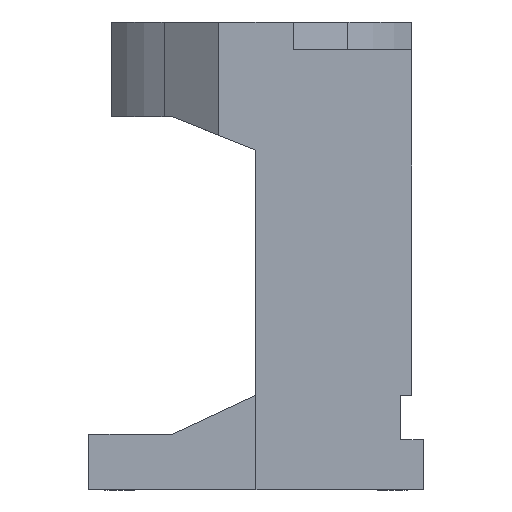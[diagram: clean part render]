
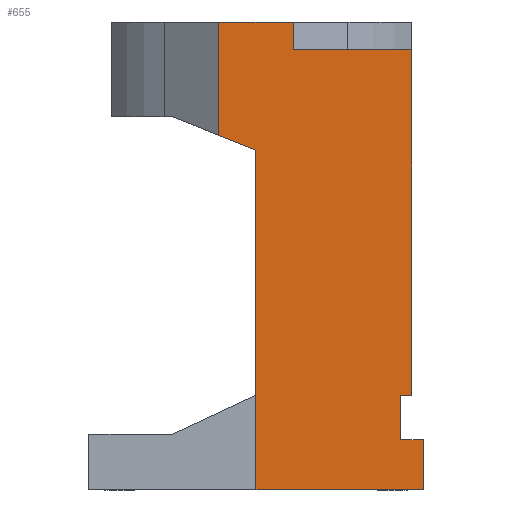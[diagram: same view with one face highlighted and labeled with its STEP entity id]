
A CAD part, left-side view. The second image highlights one B-rep face of the part: STEP entity #655.
In plain terms, the highlighted planar face has unit normal (-1, 0, 0).
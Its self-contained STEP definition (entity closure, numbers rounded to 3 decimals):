
#80 = CARTESIAN_POINT ( 'NONE',  ( -35., -6.694, 90.58 ) ) ;
#83 = CARTESIAN_POINT ( 'NONE',  ( -35., 0., 55.5 ) ) ;
#153 = EDGE_CURVE ( 'NONE', #1698, #2082, #330, .T. ) ;
#173 = DIRECTION ( 'NONE',  ( 0., 0., 1. ) ) ;
#184 = EDGE_CURVE ( 'NONE', #2879, #2538, #1757, .T. ) ;
#212 = VECTOR ( 'NONE', #173, 1000. ) ;
#330 = LINE ( 'NONE', #355, #2556 ) ;
#332 = ORIENTED_EDGE ( 'NONE', *, *, #2721, .F. ) ;
#355 = CARTESIAN_POINT ( 'NONE',  ( -35., 26., 73.5 ) ) ;
#398 = CARTESIAN_POINT ( 'NONE',  ( -35., -26., 3.5 ) ) ;
#470 = VECTOR ( 'NONE', #2494, 1000. ) ;
#579 = CARTESIAN_POINT ( 'NONE',  ( -35., -30., 3.5 ) ) ;
#599 = EDGE_CURVE ( 'NONE', #1512, #1698, #1070, .T. ) ;
#655 = ADVANCED_FACE ( 'NONE', ( #802 ), #1182, .F. ) ;
#684 = DIRECTION ( 'NONE',  ( 1., 0., 0. ) ) ;
#691 = DIRECTION ( 'NONE',  ( 0., 0., 1. ) ) ;
#707 = CARTESIAN_POINT ( 'NONE',  ( -35., 6.694, 58.178 ) ) ;
#739 = DIRECTION ( 'NONE',  ( 0., 1., 0. ) ) ;
#747 = CARTESIAN_POINT ( 'NONE',  ( -35., -28., 73.5 ) ) ;
#770 = VERTEX_POINT ( 'NONE', #398 ) ;
#785 = EDGE_CURVE ( 'NONE', #3754, #3519, #2838, .T. ) ;
#802 = FACE_OUTER_BOUND ( 'NONE', #1096, .T. ) ;
#857 = CARTESIAN_POINT ( 'NONE',  ( -35., 0., -5.5 ) ) ;
#907 = VECTOR ( 'NONE', #1473, 1000. ) ;
#948 = DIRECTION ( 'NONE',  ( 0., 0., -1. ) ) ;
#980 = CARTESIAN_POINT ( 'NONE',  ( -35., -28., 73.5 ) ) ;
#982 = LINE ( 'NONE', #3068, #212 ) ;
#1017 = LINE ( 'NONE', #2232, #2555 ) ;
#1018 = VECTOR ( 'NONE', #3550, 1000. ) ;
#1040 = ORIENTED_EDGE ( 'NONE', *, *, #2594, .T. ) ;
#1070 = LINE ( 'NONE', #80, #2802 ) ;
#1096 = EDGE_LOOP ( 'NONE', ( #3193, #2852, #2883, #1768, #332, #1138, #1492, #3605, #1450, #1040, #3168, #2577 ) ) ;
#1138 = ORIENTED_EDGE ( 'NONE', *, *, #785, .F. ) ;
#1157 = VERTEX_POINT ( 'NONE', #857 ) ;
#1167 = LINE ( 'NONE', #747, #2730 ) ;
#1182 = PLANE ( 'NONE',  #2489 ) ;
#1295 = EDGE_CURVE ( 'NONE', #770, #2681, #2324, .T. ) ;
#1342 = DIRECTION ( 'NONE',  ( 0., 0.928, 0.371 ) ) ;
#1402 = LINE ( 'NONE', #3641, #2091 ) ;
#1450 = ORIENTED_EDGE ( 'NONE', *, *, #3037, .T. ) ;
#1473 = DIRECTION ( 'NONE',  ( 0., -1., 0. ) ) ;
#1492 = ORIENTED_EDGE ( 'NONE', *, *, #1561, .T. ) ;
#1512 = VERTEX_POINT ( 'NONE', #2160 ) ;
#1538 = EDGE_CURVE ( 'NONE', #1512, #2879, #1402, .T. ) ;
#1540 = VECTOR ( 'NONE', #691, 1000. ) ;
#1543 = CARTESIAN_POINT ( 'NONE',  ( -35., -30., 73.5 ) ) ;
#1561 = EDGE_CURVE ( 'NONE', #3754, #770, #2791, .T. ) ;
#1573 = CARTESIAN_POINT ( 'NONE',  ( -35., -26., 11.5 ) ) ;
#1698 = VERTEX_POINT ( 'NONE', #3590 ) ;
#1757 = LINE ( 'NONE', #2093, #1018 ) ;
#1768 = ORIENTED_EDGE ( 'NONE', *, *, #3551, .F. ) ;
#1827 = EDGE_CURVE ( 'NONE', #2027, #2538, #1017, .T. ) ;
#1834 = DIRECTION ( 'NONE',  ( 0., 0., -1. ) ) ;
#1871 = CARTESIAN_POINT ( 'NONE',  ( -35., 0., -5.5 ) ) ;
#2027 = VERTEX_POINT ( 'NONE', #83 ) ;
#2082 = VERTEX_POINT ( 'NONE', #980 ) ;
#2091 = VECTOR ( 'NONE', #739, 1000. ) ;
#2093 = CARTESIAN_POINT ( 'NONE',  ( -35., 6.694, 73.5 ) ) ;
#2122 = CARTESIAN_POINT ( 'NONE',  ( -35., -26., 73.5 ) ) ;
#2160 = CARTESIAN_POINT ( 'NONE',  ( -35., -6.694, 78.5 ) ) ;
#2172 = DIRECTION ( 'NONE',  ( 0., 1., 0. ) ) ;
#2177 = DIRECTION ( 'NONE',  ( 0., 0., 1. ) ) ;
#2232 = CARTESIAN_POINT ( 'NONE',  ( -35., 0., 55.5 ) ) ;
#2274 = CARTESIAN_POINT ( 'NONE',  ( -35., 26., 73.5 ) ) ;
#2324 = LINE ( 'NONE', #2122, #1540 ) ;
#2383 = DIRECTION ( 'NONE',  ( 0., -1., 0. ) ) ;
#2487 = DIRECTION ( 'NONE',  ( 0., 1., 0. ) ) ;
#2489 = AXIS2_PLACEMENT_3D ( 'NONE', #2274, #684, #2487 ) ;
#2494 = DIRECTION ( 'NONE',  ( 0., 1., 0. ) ) ;
#2538 = VERTEX_POINT ( 'NONE', #707 ) ;
#2555 = VECTOR ( 'NONE', #1342, 1000. ) ;
#2556 = VECTOR ( 'NONE', #2383, 1000. ) ;
#2577 = ORIENTED_EDGE ( 'NONE', *, *, #599, .F. ) ;
#2594 = EDGE_CURVE ( 'NONE', #2874, #2082, #1167, .T. ) ;
#2681 = VERTEX_POINT ( 'NONE', #1573 ) ;
#2721 = EDGE_CURVE ( 'NONE', #3519, #1157, #3533, .T. ) ;
#2730 = VECTOR ( 'NONE', #2177, 1000. ) ;
#2747 = VECTOR ( 'NONE', #1834, 1000. ) ;
#2774 = CARTESIAN_POINT ( 'NONE',  ( -35., 26., 3.5 ) ) ;
#2791 = LINE ( 'NONE', #2774, #470 ) ;
#2802 = VECTOR ( 'NONE', #948, 1000. ) ;
#2838 = LINE ( 'NONE', #1543, #2747 ) ;
#2852 = ORIENTED_EDGE ( 'NONE', *, *, #184, .T. ) ;
#2874 = VERTEX_POINT ( 'NONE', #3457 ) ;
#2879 = VERTEX_POINT ( 'NONE', #3752 ) ;
#2883 = ORIENTED_EDGE ( 'NONE', *, *, #1827, .F. ) ;
#3037 = EDGE_CURVE ( 'NONE', #2681, #2874, #3130, .T. ) ;
#3068 = CARTESIAN_POINT ( 'NONE',  ( -35., 0., 73.5 ) ) ;
#3130 = LINE ( 'NONE', #3233, #907 ) ;
#3168 = ORIENTED_EDGE ( 'NONE', *, *, #153, .F. ) ;
#3193 = ORIENTED_EDGE ( 'NONE', *, *, #1538, .T. ) ;
#3233 = CARTESIAN_POINT ( 'NONE',  ( -35., 26., 11.5 ) ) ;
#3445 = VECTOR ( 'NONE', #2172, 1000. ) ;
#3457 = CARTESIAN_POINT ( 'NONE',  ( -35., -28., 11.5 ) ) ;
#3519 = VERTEX_POINT ( 'NONE', #3634 ) ;
#3533 = LINE ( 'NONE', #1871, #3445 ) ;
#3550 = DIRECTION ( 'NONE',  ( 0., 0., -1. ) ) ;
#3551 = EDGE_CURVE ( 'NONE', #1157, #2027, #982, .T. ) ;
#3590 = CARTESIAN_POINT ( 'NONE',  ( -35., -6.694, 73.5 ) ) ;
#3605 = ORIENTED_EDGE ( 'NONE', *, *, #1295, .T. ) ;
#3634 = CARTESIAN_POINT ( 'NONE',  ( -35., -30., -5.5 ) ) ;
#3641 = CARTESIAN_POINT ( 'NONE',  ( -35., -12.471, 78.5 ) ) ;
#3752 = CARTESIAN_POINT ( 'NONE',  ( -35., 6.694, 78.5 ) ) ;
#3754 = VERTEX_POINT ( 'NONE', #579 ) ;
